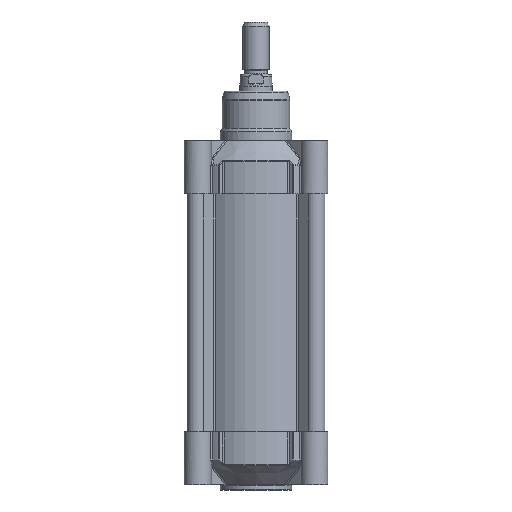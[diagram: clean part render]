
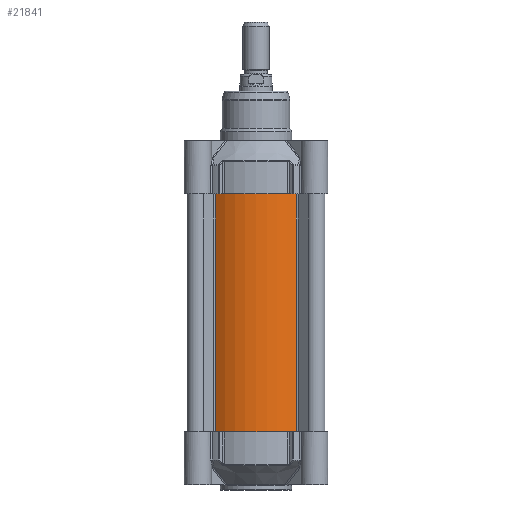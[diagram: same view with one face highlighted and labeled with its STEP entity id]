
A CAD part, left-side view. The second image highlights one B-rep face of the part: STEP entity #21841.
In plain terms, the highlighted cylindrical face has radius 52.7 mm (diameter 105.4 mm), a partial arc.
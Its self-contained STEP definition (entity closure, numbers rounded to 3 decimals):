
#1972=LINE('',#43617,#3030);
#1973=LINE('',#43621,#3031);
#3030=VECTOR('',#29906,10.);
#3031=VECTOR('',#29911,10.);
#4020=CYLINDRICAL_SURFACE('',#24279,52.7);
#5708=FACE_OUTER_BOUND('',#7393,.T.);
#7393=EDGE_LOOP('',(#18817,#18818,#18819,#18820));
#8528=CIRCLE('',#24118,52.7);
#8585=CIRCLE('',#24280,52.7);
#10334=VERTEX_POINT('',#43193);
#10335=VERTEX_POINT('',#43195);
#10441=VERTEX_POINT('',#43615);
#10442=VERTEX_POINT('',#43619);
#13081=EDGE_CURVE('',#10334,#10335,#8528,.T.);
#13292=EDGE_CURVE('',#10334,#10441,#1972,.T.);
#13293=EDGE_CURVE('',#10442,#10441,#8585,.T.);
#13294=EDGE_CURVE('',#10335,#10442,#1973,.T.);
#18817=ORIENTED_EDGE('',*,*,#13292,.T.);
#18818=ORIENTED_EDGE('',*,*,#13293,.F.);
#18819=ORIENTED_EDGE('',*,*,#13294,.F.);
#18820=ORIENTED_EDGE('',*,*,#13081,.F.);
#21841=ADVANCED_FACE('',(#5708),#4020,.T.);
#24118=AXIS2_PLACEMENT_3D('',#43196,#29430,#29431);
#24279=AXIS2_PLACEMENT_3D('',#43618,#29907,#29908);
#24280=AXIS2_PLACEMENT_3D('',#43620,#29909,#29910);
#29430=DIRECTION('center_axis',(0.,0.,-1.));
#29431=DIRECTION('ref_axis',(-0.586,-0.81,0.));
#29906=DIRECTION('',(0.,0.,1.));
#29907=DIRECTION('center_axis',(0.,0.,1.));
#29908=DIRECTION('ref_axis',(-0.586,-0.81,0.));
#29909=DIRECTION('center_axis',(0.,0.,1.));
#29910=DIRECTION('ref_axis',(-0.586,-0.81,0.));
#29911=DIRECTION('',(0.,0.,1.));
#43193=CARTESIAN_POINT('',(30.896,-42.693,-91.));
#43195=CARTESIAN_POINT('',(-30.896,-42.693,-91.));
#43196=CARTESIAN_POINT('Origin',(0.,0.,
-91.));
#43615=CARTESIAN_POINT('',(30.896,-42.693,91.));
#43617=CARTESIAN_POINT('',(30.896,-42.693,0.));
#43618=CARTESIAN_POINT('Origin',(0.,0.,
0.));
#43619=CARTESIAN_POINT('',(-30.896,-42.693,91.));
#43620=CARTESIAN_POINT('Origin',(0.,0.,
91.));
#43621=CARTESIAN_POINT('',(-30.896,-42.693,0.));
